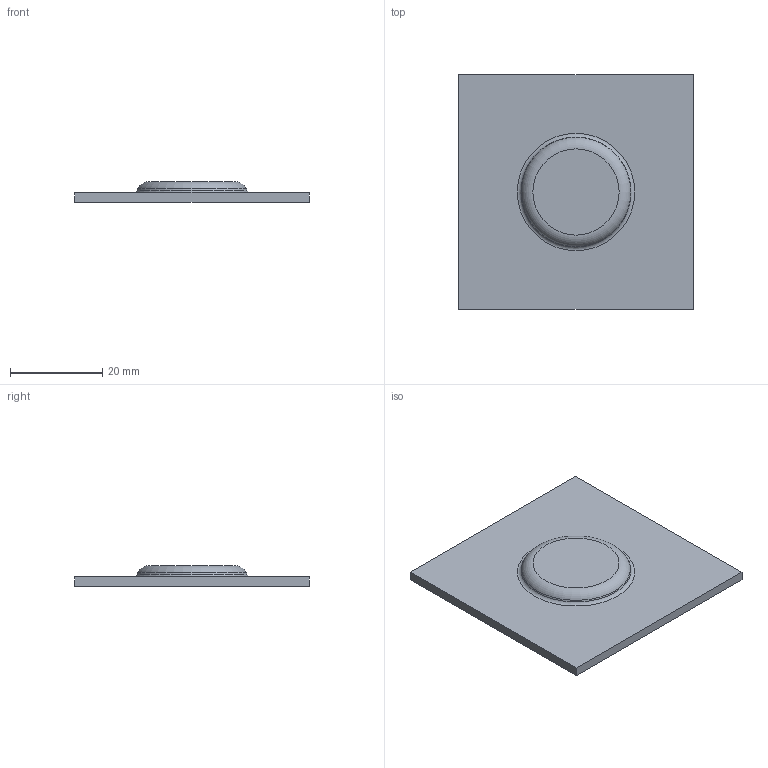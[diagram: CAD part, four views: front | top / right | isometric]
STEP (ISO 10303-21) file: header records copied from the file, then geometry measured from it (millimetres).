
FILE_DESCRIPTION((''),'1');
FILE_NAME('C:/Users/ericfrey/Desktop/POO POO DIMPLE.stp', '2015-04-29T16:44:17',(''), (''), 'KCM Version 1.1.1182.0', 'Kubotek KeyCreator', '');
FILE_SCHEMA(('AUTOMOTIVE_DESIGN'));
Length unit declared in the file: inch
Bounding box: 50.79 x 50.82 x 4.45 mm (x, y, z)
Volume: 5390.2 mm3; surface area: 5719.7 mm2
Topology: 1 solids, 1 shells, 14 faces, 33 edges, 23 vertices
Faces by surface type: plane 8, torus 4, cone 2
Entity records: 410 total; most frequent: DIRECTION 68, ORIENTED_EDGE 66, CARTESIAN_POINT 64, EDGE_CURVE 33, AXIS2_PLACEMENT_3D 27, VERTEX_POINT 23, EDGE_LOOP 16, VECTOR 14
